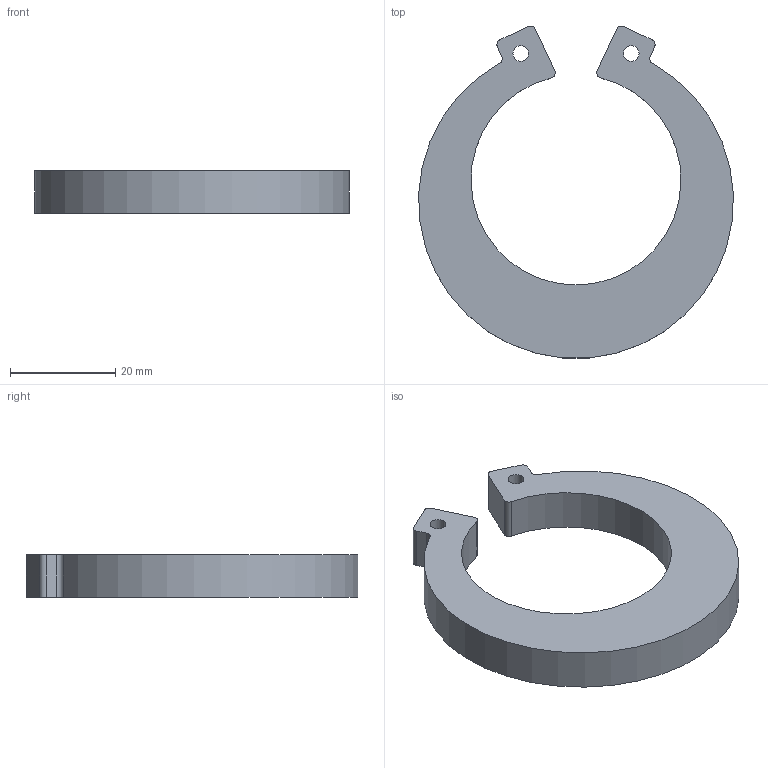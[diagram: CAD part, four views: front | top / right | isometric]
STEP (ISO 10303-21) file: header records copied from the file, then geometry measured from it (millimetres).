
FILE_DESCRIPTION((''),'2;1');
FILE_NAME('D:\shriniwas\inventor_2009\c17_inv_2009_09062008\Tutorial_2\circlip.stp','2008-06-20T10:18:38',('CADCIM'),(''),'Autodesk Inventor 2009','Autodesk Inventor 2009','');
FILE_SCHEMA(('AUTOMOTIVE_DESIGN { 1 0 10303 214 1 1 1 1 }'));
Length unit declared in the file: millimetre
Products named in the file (1): circlip
Bounding box: 59.94 x 63.22 x 8 mm (x, y, z)
Volume: 12510.3 mm3; surface area: 5843.6 mm2
Topology: 1 solids, 1 shells, 20 faces, 54 edges, 36 vertices
Faces by surface type: cylinder 12, plane 8
Full cylindrical faces by diameter (mm): 3 x2
Entity records: 666 total; most frequent: DIRECTION 118, CARTESIAN_POINT 109, ORIENTED_EDGE 104, EDGE_CURVE 52, AXIS2_PLACEMENT_3D 45, VERTEX_POINT 36, VECTOR 28, LINE 28
